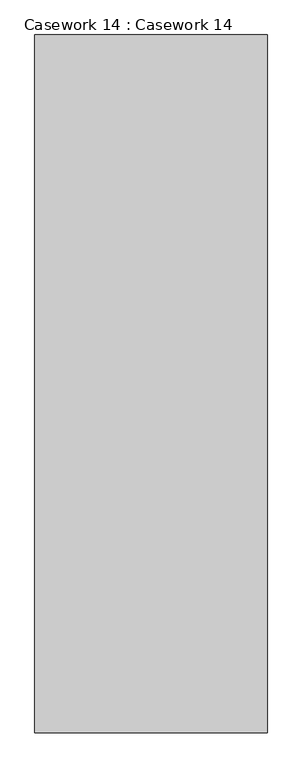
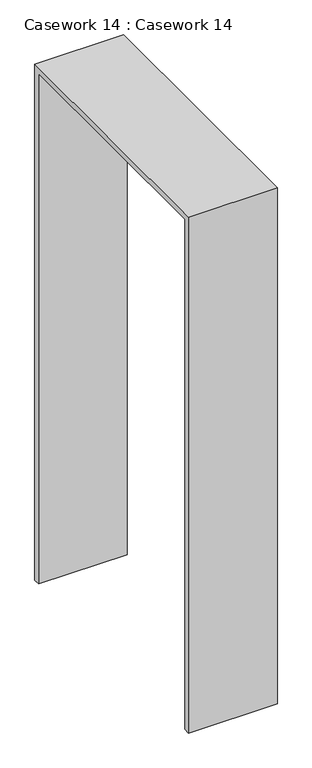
"""IFC4 building model written with IfcOpenShell, lengths in millimetres: furniture geometry, Casework 14 : Casework 14."""

import ifcopenshell
import ifcopenshell.guid

model = None  # the IFC model being written
_history = None  # IfcOwnerHistory: only IFC2X3 demands one
_inside = {}  # id of a spatial element -> (the spatial element, [elements in it])
_under = {}  # id of a project, library or spatial element -> (it, [spatial elements below it])
_declared = {}  # id of a project -> (the project, [libraries it declares])
_typed = {}  # id of a type object -> (the type object, [elements of that type])
_made_of = {}  # id of a material, layer set ... -> (it, [elements and type objects made of it])


def new_model(schema):
    """Start an empty IFC model of exactly this schema.

    Asked for "IFC4X3", IfcOpenShell would pick the latest addendum, in which some entities
    have other attributes; the version numbers below select the first issue.
    IFC2X3 requires an IfcOwnerHistory on every rooted entity: one is made here for all.
    """
    global model, _history
    if schema == "IFC4X3":
        model = ifcopenshell.file(schema_version=(4, 3, 0, 0))
    else:
        model = ifcopenshell.file(schema=schema)
    _inside.clear()
    _under.clear()
    _declared.clear()
    _typed.clear()
    _made_of.clear()
    _history = None
    if model.schema == "IFC2X3":
        org = make("IfcOrganization", Name="unknown")
        user = make(
            "IfcPersonAndOrganization",
            ThePerson=make("IfcPerson", FamilyName="unknown"),
            TheOrganization=org,
        )
        app = make(
            "IfcApplication",
            ApplicationDeveloper=org,
            Version="unknown",
            ApplicationFullName="unknown",
            ApplicationIdentifier="unknown",
        )
        _history = make(
            "IfcOwnerHistory",
            OwningUser=user,
            OwningApplication=app,
            ChangeAction="ADDED",
            CreationDate=0,
        )
    return model


def make(cls, **values):
    """One entity of the class cls with the attributes given. An attribute that is None is left unset."""
    return model.create_entity(
        cls, **{name: value for name, value in values.items() if value is not None}
    )


def rooted(cls, **values):
    """An entity with a GlobalId (a new one), such as an element, a storey or a relation."""
    return make(cls, GlobalId=ifcopenshell.guid.new(), OwnerHistory=_history, **values)


def si_unit(unit_type, name, prefix=None):
    """IfcSIUnit, for example si_unit("LENGTHUNIT", "METRE", prefix="MILLI")."""
    return make("IfcSIUnit", UnitType=unit_type, Prefix=prefix, Name=name)


def assignment(units):
    """IfcUnitAssignment: the units of a project."""
    return None if units is None else make("IfcUnitAssignment", Units=units)


def point(xyz):
    """IfcCartesianPoint."""
    return None if xyz is None else make("IfcCartesianPoint", Coordinates=xyz)


def direction(xyz):
    """IfcDirection."""
    return None if xyz is None else make("IfcDirection", DirectionRatios=xyz)


def frame(location, z_axis=None, x_axis=None):
    """IfcAxis2Placement3D, a coordinate frame: its origin and axes. An axis left out is left unset."""
    return make(
        "IfcAxis2Placement3D",
        Location=point(location),
        Axis=direction(z_axis),
        RefDirection=direction(x_axis),
    )


def origin():
    """The frame at (0, 0, 0) with its axes left unset."""
    return frame((0.0, 0.0, 0.0))


def place(relative_to, where):
    """IfcLocalPlacement: puts the frame where relative to a parent placement (None: the world)."""
    return make(
        "IfcLocalPlacement", PlacementRelTo=relative_to, RelativePlacement=where
    )


def context(
    kind, dimensions, precision=None, world=None, true_north=None, identifier=None
):
    """IfcGeometricRepresentationContext, for example the 3D "Model" context."""
    return make(
        "IfcGeometricRepresentationContext",
        ContextIdentifier=identifier,
        ContextType=kind,
        CoordinateSpaceDimension=dimensions,
        Precision=precision,
        WorldCoordinateSystem=world,
        TrueNorth=true_north,
    )


def project(units=None, contexts=None):
    """IfcProject with its units and contexts."""
    return rooted(
        "IfcProject",
        Name="project",
        RepresentationContexts=contexts,
        UnitsInContext=assignment(units),
    )


def spatial(cls, under=None, at=None, **own):
    """A site, building, storey or space (cls), placed at a placement, below another one or the project."""
    s = rooted(cls, ObjectPlacement=at, **own)
    if under is not None:
        _under.setdefault(under.id(), (under, []))[1].append(s)
    return s


def polyline(points):
    """IfcPolyline through the points."""
    return make("IfcPolyline", Points=[point(p) for p in points])


def outline(outer, holes=None, kind="AREA"):
    """IfcArbitraryClosedProfileDef: a profile drawn as a closed curve; with holes, ...WithVoids."""
    if holes is None:
        return make("IfcArbitraryClosedProfileDef", ProfileType=kind, OuterCurve=outer)
    return make(
        "IfcArbitraryProfileDefWithVoids",
        ProfileType=kind,
        OuterCurve=outer,
        InnerCurves=holes,
    )


def extrude(swept, where, along, depth):
    """IfcExtrudedAreaSolid: the profile swept, set in the frame where, extruded along a direction by depth."""
    return make(
        "IfcExtrudedAreaSolid",
        SweptArea=swept,
        Position=where,
        ExtrudedDirection=direction(along),
        Depth=depth,
    )


def shape(context_of_items, identifier, shape_type, items):
    """IfcShapeRepresentation: the items that make up one representation, for example the "Body"."""
    return make(
        "IfcShapeRepresentation",
        ContextOfItems=context_of_items,
        RepresentationIdentifier=identifier,
        RepresentationType=shape_type,
        Items=items,
    )


def source(mapping_origin, context_of_items, identifier, shape_type, items):
    """IfcRepresentationMap: a shape defined once, which mapped items show again and again."""
    return make(
        "IfcRepresentationMap",
        MappingOrigin=mapping_origin,
        MappedRepresentation=shape(context_of_items, identifier, shape_type, items),
    )


def transform(
    local_origin,
    x_axis=None,
    y_axis=None,
    z_axis=None,
    scale=None,
    scale2=None,
    scale3=None,
    uniform=True,
):
    """IfcCartesianTransformationOperator3D, or its non-uniform kind. x_axis, y_axis, z_axis: its Axis1, 2, 3."""
    if uniform:
        return make(
            "IfcCartesianTransformationOperator3D",
            Axis1=direction(x_axis),
            Axis2=direction(y_axis),
            LocalOrigin=point(local_origin),
            Scale=scale,
            Axis3=direction(z_axis),
        )
    return make(
        "IfcCartesianTransformationOperator3DnonUniform",
        Axis1=direction(x_axis),
        Axis2=direction(y_axis),
        LocalOrigin=point(local_origin),
        Scale=scale,
        Axis3=direction(z_axis),
        Scale2=scale2,
        Scale3=scale3,
    )


def mapped(mapping_source, mapping_target):
    """IfcMappedItem: shows the shape of a source again, moved by a transform."""
    return make(
        "IfcMappedItem", MappingSource=mapping_source, MappingTarget=mapping_target
    )


def made_of(thing, what):
    """Note that an element or type object is made of a material, layer set ...; save() writes the relation."""
    if what is not None:
        _made_of.setdefault(what.id(), (what, []))[1].append(thing)
    return thing


def element(
    cls,
    number,
    at=None,
    inside=None,
    cuts=None,
    type_object=None,
    material=None,
    context=None,
    identifier="Body",
    shape_type=None,
    held_by="IfcProductDefinitionShape",
    body=None,
    shapes=None,
    **own,
):
    """One element of the class cls, such as IfcWall. Its Tag is "e" and its number.

    at: its placement. inside: the storey or other place that contains it. cuts: it is an
    opening in that element (IfcRelVoidsElement). A single representation is given by context,
    identifier, shape_type and body (its items); several are given by shapes. held_by: the class
    of the entity that holds the representations. save() writes the other relations.
    """
    e = rooted(cls, Tag="e%d" % number, ObjectPlacement=at, **own)
    if body is not None:
        shapes = [shape(context, identifier, shape_type, body)]
    if shapes is not None:
        e.Representation = make(held_by, Representations=shapes)
    if inside is not None:
        _inside.setdefault(inside.id(), (inside, []))[1].append(e)
    if cuts is not None:
        rooted(
            "IfcRelVoidsElement", RelatingBuildingElement=cuts, RelatedOpeningElement=e
        )
    if type_object is not None:
        _typed.setdefault(type_object.id(), (type_object, []))[1].append(e)
    return made_of(e, material)


def aggregate(whole, parts):
    """IfcRelAggregates: a whole, such as a stair, and the parts it consists of."""
    return rooted("IfcRelAggregates", RelatingObject=whole, RelatedObjects=parts)


def save(model, path):
    """Write the relations noted so far, then the file.

    IfcRelAggregates (storeys below a building ...), IfcRelContainedInSpatialStructure (elements
    in a storey), IfcRelDefinesByType, IfcRelAssociatesMaterial and IfcRelDeclares: one each for
    every whole, place, type object, material and project.
    """
    for whole, parts in _under.values():
        aggregate(whole, parts)
    for where, things in _inside.values():
        rooted(
            "IfcRelContainedInSpatialStructure",
            RelatedElements=things,
            RelatingStructure=where,
        )
    for kind, things in _typed.values():
        rooted("IfcRelDefinesByType", RelatedObjects=things, RelatingType=kind)
    for what, things in _made_of.values():
        rooted("IfcRelAssociatesMaterial", RelatedObjects=things, RelatingMaterial=what)
    for by, libraries in _declared.values():
        rooted("IfcRelDeclares", RelatingContext=by, RelatedDefinitions=libraries)
    model.write(path)


def casework_14_casework_14_4ba8a601(model_context):
    return source(origin(), model_context, "Body", "SweptSolid", [
        extrude(outline(polyline([(10858.3947939, 5435.6), (11925.1947939, 5435.6), (11925.1947939, 3251.2), (11899.7948181, 3251.2), (11899.7948181, 5410.2), (10883.7947946, 5410.2), (10883.7947946, 3251.2), (10858.3947939, 3251.2), (10858.3947939, 5435.6)])), frame((2425.7, 0.0, 0.0), z_axis=(1.0, 0.0, 0.0), x_axis=(0.0, 1.0, 0.0)), (0.0, 0.0, 1.0), 355.6),
    ])


if __name__ == "__main__":
    model = new_model("IFC4")
    model_context = context("Model", 3, world=origin())
    ifc_project = project(units=[si_unit("LENGTHUNIT", "METRE", prefix="MILLI")], contexts=[model_context])
    site = spatial("IfcSite", under=ifc_project)
    building = spatial("IfcBuilding", under=site)
    placement = place(None, origin())
    casework_14_casework_14_shape = casework_14_casework_14_4ba8a601(model_context)
    element("IfcFurniture", 1, ObjectType="Casework 14 : Casework 14", at=placement, inside=building, context=model_context, shape_type="MappedRepresentation", body=[
        mapped(casework_14_casework_14_shape, transform((0.0, 0.0, 0.0), x_axis=(1.0, 0.0, 0.0), y_axis=(0.0, 1.0, 0.0), z_axis=(0.0, 0.0, 1.0))),
    ])
    save(model, "model.ifc")
